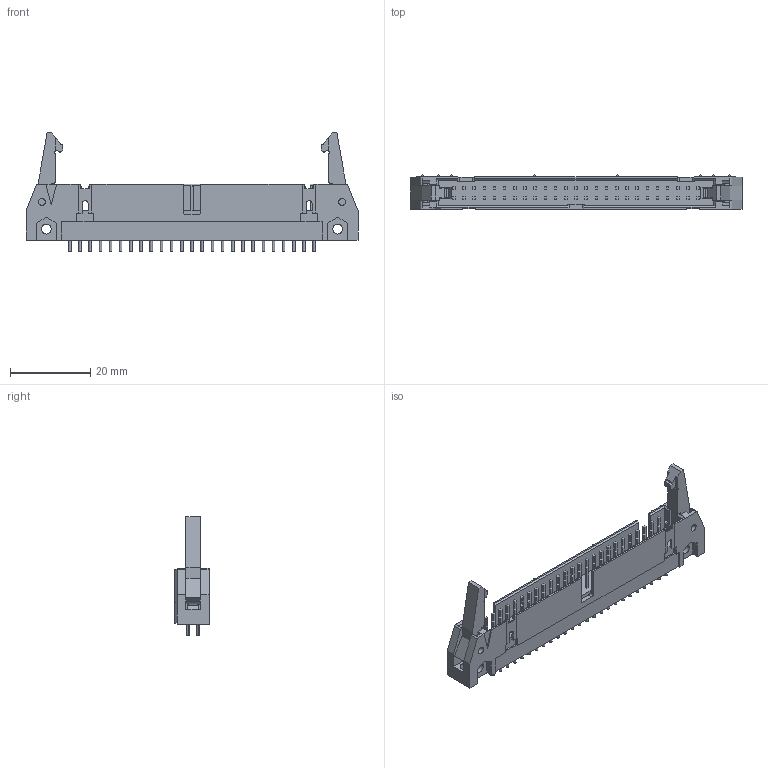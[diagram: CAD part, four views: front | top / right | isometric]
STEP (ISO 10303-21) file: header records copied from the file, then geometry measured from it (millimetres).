
FILE_DESCRIPTION(('STEP AP242'),'1');
FILE_NAME('1-5499922-0.stp','2022-09-12T14:20:20',('TraceParts'),('TraceParts S.A.'),'Spatial InterOp 3D',' ',' ');
FILE_SCHEMA(('AP242_MANAGED_MODEL_BASED_3D_ENGINEERING_MIM_LF {1 0 10303 442 1 1 4}'));
Length unit declared in the file: millimetre
Products named in the file (1): 1-5499922-0
Bounding box: 82.8 x 8.53 x 29.59 mm (x, y, z)
Volume: 5877.8 mm3; surface area: 6864.7 mm2
Topology: 1 solids, 1 shells, 696 faces, 1748 edges, 1156 vertices
Faces by surface type: plane 532, cylinder 156, sphere 8
Entity records: 20755 total; most frequent: CARTESIAN_POINT 3601, DIRECTION 3498, ORIENTED_EDGE 3496, EDGE_CURVE 1748, LINE 1392, VECTOR 1392, VERTEX_POINT 1156, AXIS2_PLACEMENT_3D 1053
